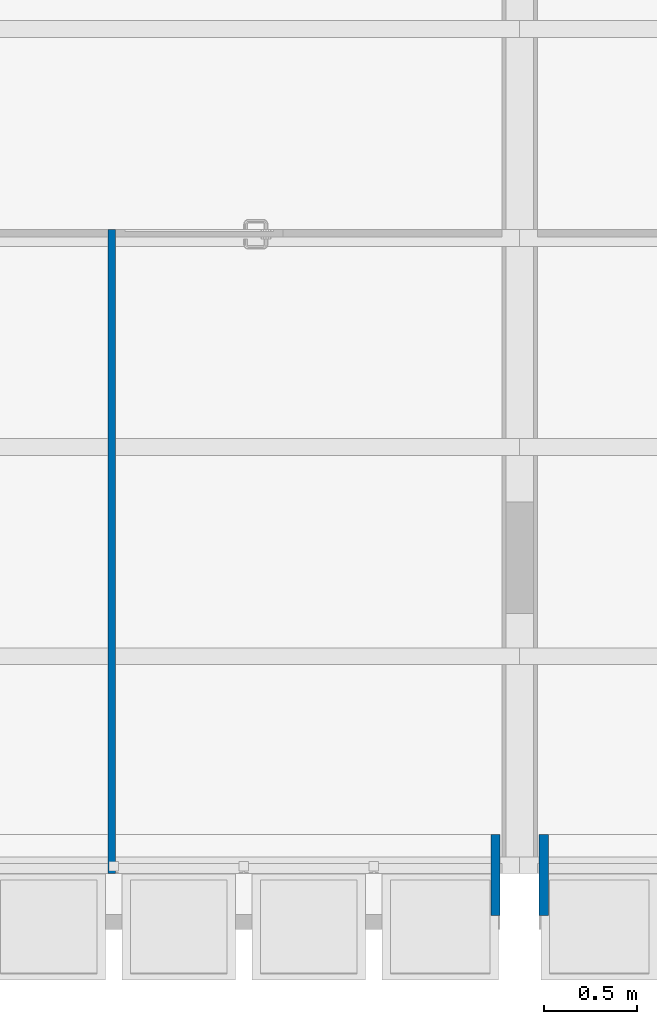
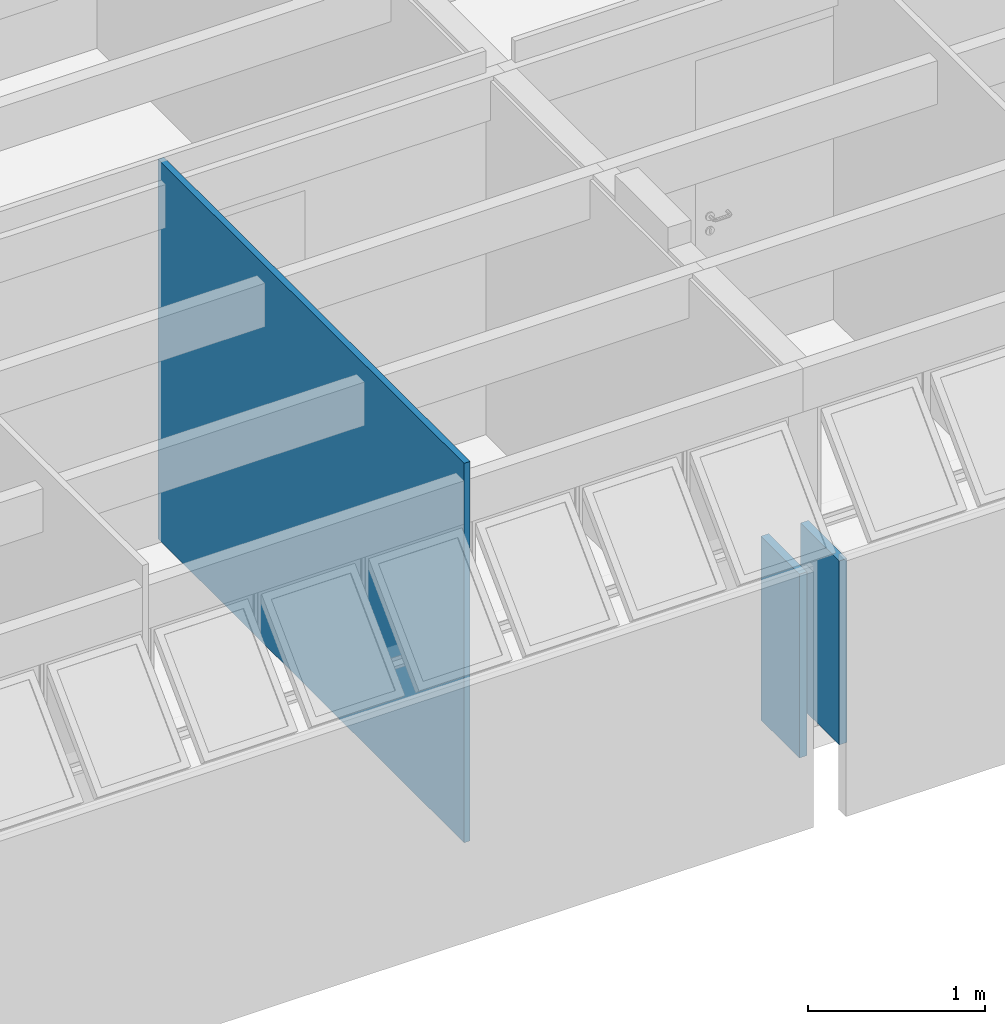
# One storey, part 18 of 40: 3 walls.
"""IFC4 building model written with IfcOpenShell, lengths in millimetres."""

from ifc_helpers import new_model, entity, si_unit, converted_unit, derived_unit, direction, frame, origin_with_axes, place, context, subcontext, project, spatial, line, indexed_curve, outline, extrude, material, layer, layer_set, layer_usage, type_object, element, save


model = new_model("IFC4")

# Units and contexts
model_context = context("Model", 3, precision=0.01, world=origin_with_axes(), true_north=direction((0.0, 1.0)))
body_context = subcontext(model_context, "Body", "Model", "MODEL_VIEW")
ifc_project = project(units=[si_unit("LENGTHUNIT", "METRE", prefix="MILLI"), si_unit("AREAUNIT", "SQUARE_METRE"), si_unit("VOLUMEUNIT", "CUBIC_METRE"), converted_unit("PLANEANGLEUNIT", "DEGREE", entity("IfcPlaneAngleMeasure", 0.0174532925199), si_unit("PLANEANGLEUNIT", "RADIAN"), dimensions=[0, 0, 0, 0, 0, 0, 0]), converted_unit("TIMEUNIT", "Year", entity("IfcTimeMeasure", 31556926.0), si_unit("TIMEUNIT", "SECOND"), dimensions=[0, 0, 1, 0, 0, 0, 0]), si_unit("MASSUNIT", "GRAM", prefix="KILO"), si_unit("THERMODYNAMICTEMPERATUREUNIT", "DEGREE_CELSIUS"), si_unit("LUMINOUSINTENSITYUNIT", "LUMEN"), si_unit("ENERGYUNIT", "JOULE", prefix="MEGA"), derived_unit("THERMALCONDUCTANCEUNIT", [(si_unit("POWERUNIT", "WATT"), 1), (si_unit("LENGTHUNIT", "METRE"), -1), (si_unit("THERMODYNAMICTEMPERATUREUNIT", "KELVIN"), -1)]), derived_unit("SPECIFICHEATCAPACITYUNIT", [(si_unit("ENERGYUNIT", "JOULE"), 1), (si_unit("MASSUNIT", "GRAM", prefix="KILO"), -1), (si_unit("THERMODYNAMICTEMPERATUREUNIT", "KELVIN"), -1)]), derived_unit("MASSDENSITYUNIT", [(si_unit("MASSUNIT", "GRAM", prefix="KILO"), 1), (si_unit("VOLUMEUNIT", "CUBIC_METRE"), -1)])], contexts=[model_context])

# Site, building, storey
site_placement = place(None, origin_with_axes())
site = spatial("IfcSite", under=ifc_project, at=site_placement, Name="Local", CompositionType="ELEMENT")
building_placement = place(site_placement, origin_with_axes())
building = spatial("IfcBuilding", under=site, at=building_placement, Name="Construção", CompositionType="ELEMENT")
storey_placement = place(building_placement, origin_with_axes())
storey = spatial("IfcBuildingStorey", under=building, at=storey_placement, Name="Primeiro Pavimento", CompositionType="ELEMENT", Elevation=0.0)

# Walls
ifc_material_1 = material(Name="GENÉRICO - VEDAÇÃO EXTERNA")
ifc_layer_1 = layer(ifc_material_1, 40.0, ventilated="UNKNOWN", Name="GENÉRICO - VEDAÇÃO EXTERNA")
ifc_layer_set_1 = layer_set([ifc_layer_1], Name="GENÉRICO - VEDAÇÃO EXTERNA 40")
ifc_layer_usage_1 = layer_usage(ifc_layer_set_1, "AXIS2", "NEGATIVE", 0.0)
wall_type_1 = type_object("IfcWallType", Name="GENÉRICO - VEDAÇÃO EXTERNA 40", PredefinedType="NOTDEFINED")
wall_1_placement = place(storey_placement, frame((5210.0, 3765.0, 0.0), z_axis=(0.0, 0.0, 1.0), x_axis=(0.0, -1.0, 0.0)))
element("IfcWall", 1, at=wall_1_placement, inside=storey, type_object=wall_type_1, material=ifc_layer_usage_1, Name="APTO1-PAREDE-005", PredefinedType="NOTDEFINED", context=body_context, shape_type="SweptSolid", body=[
    extrude(outline(indexed_curve([(0.0, -40.0), (3465.0, -40.0), (3465.0, 0.0), (0.0, 0.0)], segments=[line(1, 2, 3, 4, 1)])), origin_with_axes(), (0.0, 0.0, 1.0), 2620.0),
])
ifc_material_2 = material(Name="Concreto Armado Moldado in Loco - Estrutural")
ifc_layer_2 = layer(ifc_material_2, 50.0, ventilated="UNKNOWN", Name="Concreto Armado Moldado in Loco - Estrutural")
ifc_layer_set_2 = layer_set([ifc_layer_2], Name="Concreto Armado Moldado in Loco - Estrutural 50")
ifc_layer_usage_2 = layer_usage(ifc_layer_set_2, "AXIS2", "POSITIVE", -50.0)
wall_type_2 = type_object("IfcWallType", Name="Concreto Armado Moldado in Loco - Estrutural 50", PredefinedType="NOTDEFINED")
wall_2_placement = place(storey_placement, frame((7540.0, 510.0, 0.0), z_axis=(0.0, 0.0, 1.0), x_axis=(0.0, -1.0, 0.0)))
element("IfcWall", 2, at=wall_2_placement, inside=storey, type_object=wall_type_2, material=ifc_layer_usage_2, Name="APTO2-PAREDE-001", PredefinedType="NOTDEFINED", context=body_context, shape_type="SweptSolid", body=[
    extrude(outline(indexed_curve([(0.0, -50.0), (435.0, -50.0), (435.0, 0.0), (0.0, 0.0)], segments=[line(1, 2, 3, 4, 1)])), origin_with_axes(), (0.0, 0.0, 1.0), 1270.0),
])
ifc_layer_usage_3 = layer_usage(ifc_layer_set_2, "AXIS2", "NEGATIVE", 50.0)
wall_3_placement = place(storey_placement, frame((7230.0, 510.0, 0.0), z_axis=(0.0, 0.0, 1.0), x_axis=(0.0, -1.0, 0.0)))
element("IfcWall", 3, at=wall_3_placement, inside=storey, type_object=wall_type_2, material=ifc_layer_usage_3, Name="APTO1-PAREDE-001", PredefinedType="NOTDEFINED", context=body_context, shape_type="SweptSolid", body=[
    extrude(outline(indexed_curve([(0.0, 0.0), (435.0, 0.0), (435.0, 50.0), (0.0, 50.0)], segments=[line(1, 2, 3, 4, 1)])), origin_with_axes(), (0.0, 0.0, 1.0), 1270.0),
])

save(model, "model.ifc")
